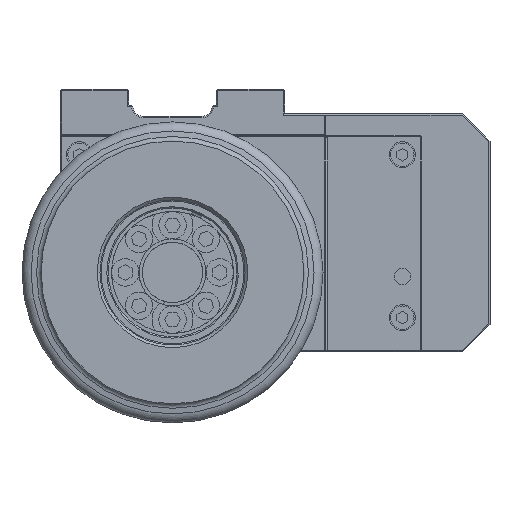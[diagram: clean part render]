
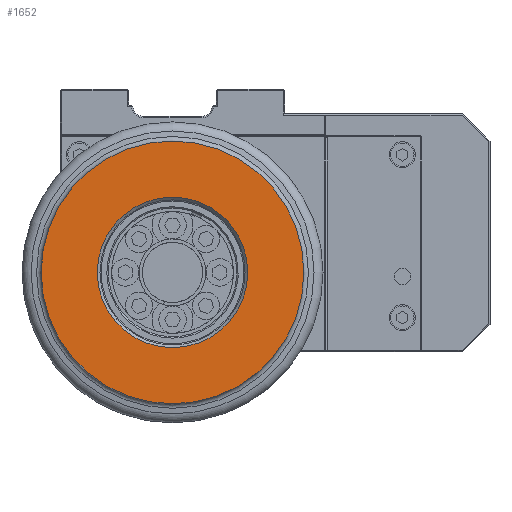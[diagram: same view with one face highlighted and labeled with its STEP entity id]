
A CAD part, front view. The second image highlights one B-rep face of the part: STEP entity #1652.
In plain terms, the highlighted planar face has unit normal (0, -1, 0).
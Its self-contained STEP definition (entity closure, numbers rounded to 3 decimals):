
#1652=ADVANCED_FACE('',(#5544,#5545),#5546,.F.);
#5544=FACE_OUTER_BOUND('',#10761,.T.);
#5545=FACE_BOUND('',#10762,.T.);
#5546=PLANE('',#10763);
#10761=EDGE_LOOP('',(#26994));
#10762=EDGE_LOOP('',(#26995));
#10763=AXIS2_PLACEMENT_3D('',#26996,#26997,#26998);
#26994=ORIENTED_EDGE('',*,*,#35935,.F.);
#26995=ORIENTED_EDGE('',*,*,#35933,.T.);
#26996=CARTESIAN_POINT('',(-73.3,-109.0,32.2));
#26997=DIRECTION('',(0.,1.0,0.));
#26998=DIRECTION('',(1.0,0.,0.0));
#35933=EDGE_CURVE('',#44319,#44319,#44320,.T.);
#35935=EDGE_CURVE('',#44323,#44323,#44324,.T.);
#44319=VERTEX_POINT('',#55561);
#44320=CIRCLE('',#55562,27.5);
#44323=VERTEX_POINT('',#55565);
#44324=CIRCLE('',#55566,48.0);
#55561=CARTESIAN_POINT('',(-73.3,-109.0,-42.));
#55562=AXIS2_PLACEMENT_3D('',#66288,#66289,#66290);
#55565=CARTESIAN_POINT('',(-73.3,-109.0,-62.5));
#55566=AXIS2_PLACEMENT_3D('',#66294,#66295,#66296);
#66288=CARTESIAN_POINT('',(-73.3,-109.0,-14.5));
#66289=DIRECTION('',(0.,1.0,0.));
#66290=DIRECTION('',(0.,0.,-1.0));
#66294=CARTESIAN_POINT('',(-73.3,-109.0,-14.5));
#66295=DIRECTION('',(0.,1.0,0.));
#66296=DIRECTION('',(0.,0.,-1.0));
